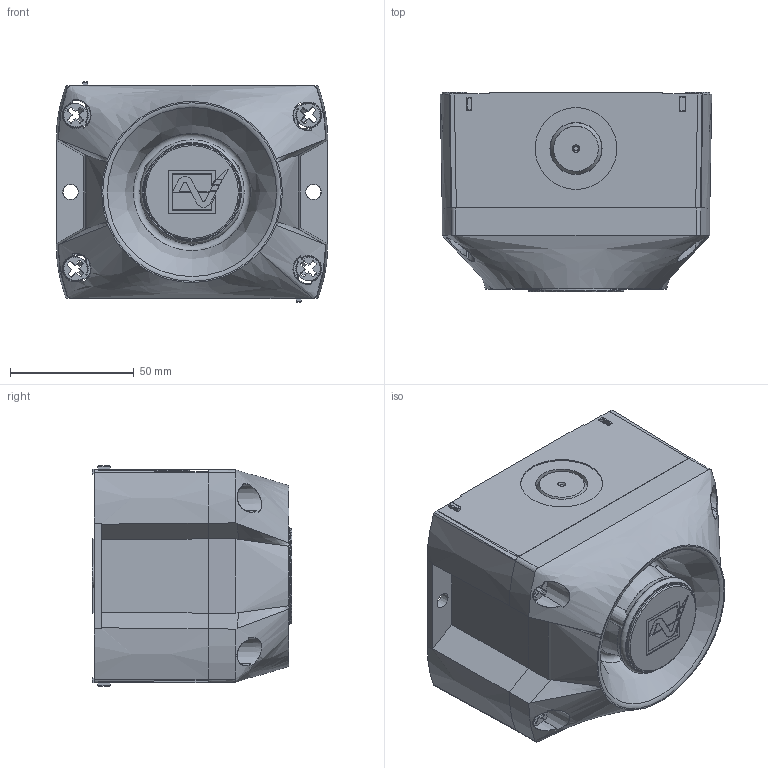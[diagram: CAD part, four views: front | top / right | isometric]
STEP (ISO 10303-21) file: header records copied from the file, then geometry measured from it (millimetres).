
FILE_DESCRIPTION (( 'STEP AP214' ), '1' );
FILE_NAME ('PA1_30303-100.STEP', '2012-01-10T09:49:35', ( ' ' ), ( ' ' ), 'SwSTEP 2.0', 'SolidWorks 2011', '' );
FILE_SCHEMA (( 'AUTOMOTIVE_DESIGN' ));
Length unit declared in the file: millimetre
Products named in the file (1): PA1_30303-100
Bounding box: 109.61 x 80.6 x 89 mm (x, y, z)
Surface area: 65166.9 mm2 (no closed solid volume)
Topology: 0 solids, 29 shells, 334 faces, 1240 edges, 942 vertices
Faces by surface type: plane 170, cone 69, cylinder 45, bspline 28, torus 21, sphere 1
Full cylindrical faces by diameter (mm): 38.4 x1
Entity records: 20167 total; most frequent: CARTESIAN_POINT 6816, DIRECTION 1848, ORIENTED_EDGE 1788, EDGE_CURVE 1192, VERTEX_POINT 924, AXIS2_PLACEMENT_3D 638, VECTOR 572, LINE 572
